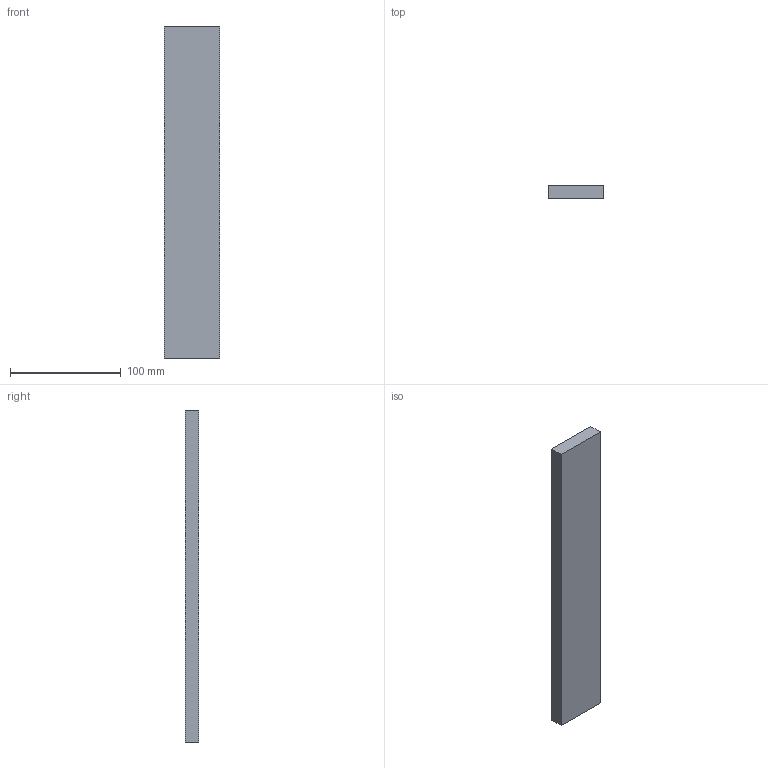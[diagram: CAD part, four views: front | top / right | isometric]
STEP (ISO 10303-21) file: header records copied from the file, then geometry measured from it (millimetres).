
FILE_DESCRIPTION (( 'STEP AP203' ), '1' );
FILE_NAME ('49-臏晦.STEP', '2015-07-07T04:00:16', ( '' ), ( '' ), 'SwSTEP 2.0', 'SolidWorks 2013', '' );
FILE_SCHEMA (( 'CONFIG_CONTROL_DESIGN' ));
Length unit declared in the file: millimetre
Products named in the file (1): 49-臏晦
Bounding box: 50 x 12 x 300 mm (x, y, z)
Volume: 180000 mm3; surface area: 38400 mm2
Topology: 1 solids, 1 shells, 6 faces, 12 edges, 8 vertices
Faces by surface type: plane 6
Entity records: 233 total; most frequent: CARTESIAN_POINT 27, DIRECTION 26, ORIENTED_EDGE 24, VECTOR 12, EDGE_CURVE 12, LINE 12, VERTEX_POINT 8, PERSON_AND_ORGANIZATION 8
